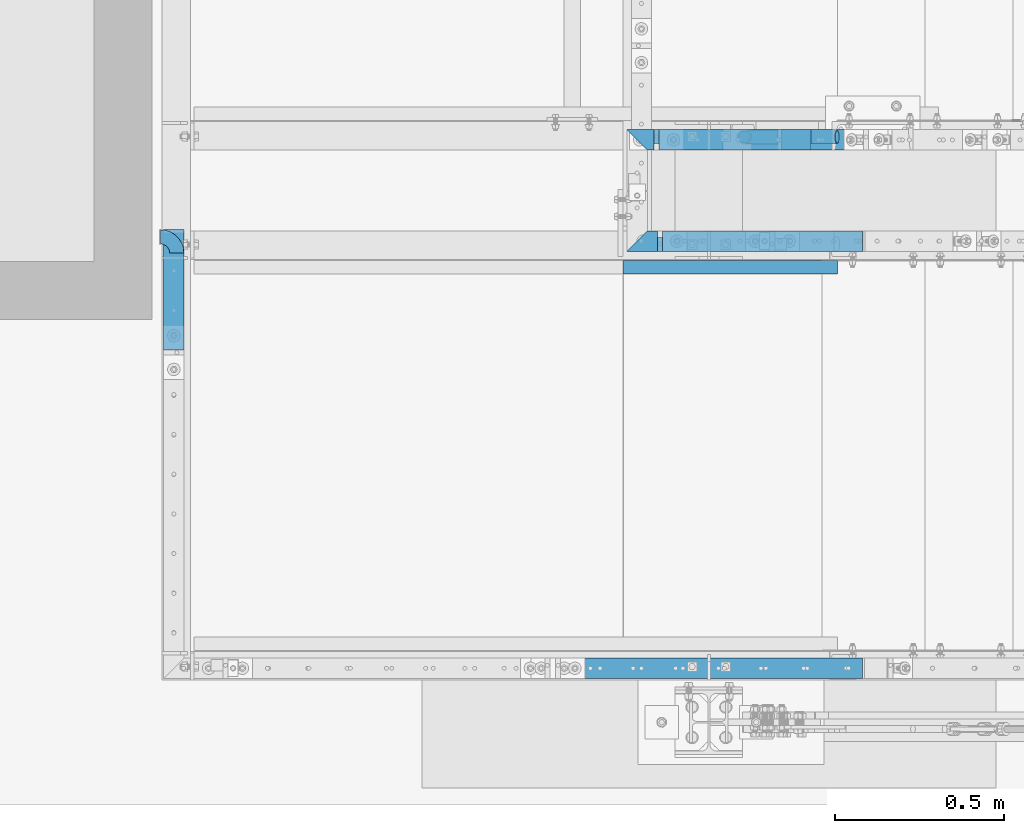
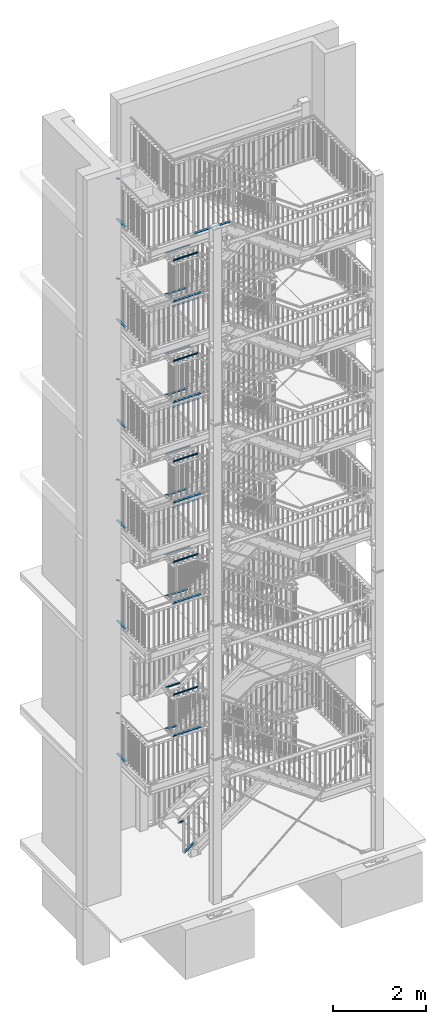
# One storey, part 132 of 821: 47 beams, 1 member, 11 openings.
"""IFC2X3 building model written with IfcOpenShell, lengths in millimetres."""

import ifcopenshell
import ifcopenshell.guid

model = None  # the IFC model being written
_history = None  # IfcOwnerHistory: only IFC2X3 demands one
_inside = {}  # id of a spatial element -> (the spatial element, [elements in it])
_under = {}  # id of a project, library or spatial element -> (it, [spatial elements below it])
_declared = {}  # id of a project -> (the project, [libraries it declares])
_typed = {}  # id of a type object -> (the type object, [elements of that type])
_made_of = {}  # id of a material, layer set ... -> (it, [elements and type objects made of it])


def new_model(schema):
    """Start an empty IFC model of exactly this schema.

    Asked for "IFC4X3", IfcOpenShell would pick the latest addendum, in which some entities
    have other attributes; the version numbers below select the first issue.
    IFC2X3 requires an IfcOwnerHistory on every rooted entity: one is made here for all.
    """
    global model, _history
    if schema == "IFC4X3":
        model = ifcopenshell.file(schema_version=(4, 3, 0, 0))
    else:
        model = ifcopenshell.file(schema=schema)
    _inside.clear()
    _under.clear()
    _declared.clear()
    _typed.clear()
    _made_of.clear()
    _history = None
    if model.schema == "IFC2X3":
        org = make("IfcOrganization", Name="unknown")
        user = make(
            "IfcPersonAndOrganization",
            ThePerson=make("IfcPerson", FamilyName="unknown"),
            TheOrganization=org,
        )
        app = make(
            "IfcApplication",
            ApplicationDeveloper=org,
            Version="unknown",
            ApplicationFullName="unknown",
            ApplicationIdentifier="unknown",
        )
        _history = make(
            "IfcOwnerHistory",
            OwningUser=user,
            OwningApplication=app,
            ChangeAction="ADDED",
            CreationDate=0,
        )
    return model


def make(cls, **values):
    """One entity of the class cls with the attributes given. An attribute that is None is left unset."""
    return model.create_entity(
        cls, **{name: value for name, value in values.items() if value is not None}
    )


def entity(cls, *values):
    """Any entity or typed value of the class cls, its attributes in the order of the schema. None: left unset."""
    e = model.create_entity(cls)
    for i, value in enumerate(values):
        if value is not None:
            e[i] = value
    return e


def rooted(cls, **values):
    """An entity with a GlobalId (a new one), such as an element, a storey or a relation."""
    return make(cls, GlobalId=ifcopenshell.guid.new(), OwnerHistory=_history, **values)


def si_unit(unit_type, name, prefix=None):
    """IfcSIUnit, for example si_unit("LENGTHUNIT", "METRE", prefix="MILLI")."""
    return make("IfcSIUnit", UnitType=unit_type, Prefix=prefix, Name=name)


def converted_unit(unit_type, name, factor, base, dimensions=None, offset=None):
    """IfcConversionBasedUnit, such as the inch: factor (a typed value) times the base unit."""
    return make(
        "IfcConversionBasedUnit"
        if offset is None
        else "IfcConversionBasedUnitWithOffset",
        ConversionOffset=offset,
        Dimensions=None
        if dimensions is None
        else entity("IfcDimensionalExponents", *dimensions),
        UnitType=unit_type,
        Name=name,
        ConversionFactor=make(
            "IfcMeasureWithUnit", ValueComponent=factor, UnitComponent=base
        ),
    )


def assignment(units):
    """IfcUnitAssignment: the units of a project."""
    return None if units is None else make("IfcUnitAssignment", Units=units)


def point(xyz):
    """IfcCartesianPoint."""
    return None if xyz is None else make("IfcCartesianPoint", Coordinates=xyz)


def direction(xyz):
    """IfcDirection."""
    return None if xyz is None else make("IfcDirection", DirectionRatios=xyz)


def frame(location, z_axis=None, x_axis=None):
    """IfcAxis2Placement3D, a coordinate frame: its origin and axes. An axis left out is left unset."""
    return make(
        "IfcAxis2Placement3D",
        Location=point(location),
        Axis=direction(z_axis),
        RefDirection=direction(x_axis),
    )


def frame_2d(location, x_axis=None):
    """IfcAxis2Placement2D, a coordinate frame in the plane: its origin and x axis."""
    return make(
        "IfcAxis2Placement2D", Location=point(location), RefDirection=direction(x_axis)
    )


def origin():
    """The frame at (0, 0, 0) with its axes left unset."""
    return frame((0.0, 0.0, 0.0))


def origin_with_axes():
    """The frame at (0, 0, 0) with the z axis (0, 0, 1) and the x axis (1, 0, 0) written out."""
    return frame((0.0, 0.0, 0.0), z_axis=(0.0, 0.0, 1.0), x_axis=(1.0, 0.0, 0.0))


def origin_2d():
    """The frame at (0, 0) in the plane with its x axis left unset."""
    return frame_2d((0.0, 0.0))


def place(relative_to, where):
    """IfcLocalPlacement: puts the frame where relative to a parent placement (None: the world)."""
    return make(
        "IfcLocalPlacement", PlacementRelTo=relative_to, RelativePlacement=where
    )


def context(
    kind, dimensions, precision=None, world=None, true_north=None, identifier=None
):
    """IfcGeometricRepresentationContext, for example the 3D "Model" context."""
    return make(
        "IfcGeometricRepresentationContext",
        ContextIdentifier=identifier,
        ContextType=kind,
        CoordinateSpaceDimension=dimensions,
        Precision=precision,
        WorldCoordinateSystem=world,
        TrueNorth=true_north,
    )


def project(units=None, contexts=None):
    """IfcProject with its units and contexts."""
    return rooted(
        "IfcProject",
        Name="project",
        RepresentationContexts=contexts,
        UnitsInContext=assignment(units),
    )


def spatial(cls, under=None, at=None, **own):
    """A site, building, storey or space (cls), placed at a placement, below another one or the project."""
    s = rooted(cls, ObjectPlacement=at, **own)
    if under is not None:
        _under.setdefault(under.id(), (under, []))[1].append(s)
    return s


def polyline(points):
    """IfcPolyline through the points."""
    return make("IfcPolyline", Points=[point(p) for p in points])


def profile(cls, at=None, kind="AREA", **sizes):
    """A parametric profile (cls). Its sizes go by their IFC names, for example OverallWidth=200.0."""
    return make(cls, ProfileType=kind, Position=at, **sizes)


def rectangle(**sizes):
    """IfcRectangleProfileDef."""
    return profile("IfcRectangleProfileDef", **sizes)


def hollow_circle(**sizes):
    """IfcCircleHollowProfileDef."""
    return profile("IfcCircleHollowProfileDef", **sizes)


def l_section(**sizes):
    """IfcLShapeProfileDef."""
    return profile("IfcLShapeProfileDef", **sizes)


def outline(outer, holes=None, kind="AREA"):
    """IfcArbitraryClosedProfileDef: a profile drawn as a closed curve; with holes, ...WithVoids."""
    if holes is None:
        return make("IfcArbitraryClosedProfileDef", ProfileType=kind, OuterCurve=outer)
    return make(
        "IfcArbitraryProfileDefWithVoids",
        ProfileType=kind,
        OuterCurve=outer,
        InnerCurves=holes,
    )


def extrude(swept, where, along, depth):
    """IfcExtrudedAreaSolid: the profile swept, set in the frame where, extruded along a direction by depth."""
    return make(
        "IfcExtrudedAreaSolid",
        SweptArea=swept,
        Position=where,
        ExtrudedDirection=direction(along),
        Depth=depth,
    )


def clip(a, b, op="DIFFERENCE"):
    """IfcBooleanClippingResult: the solid a cut by the half space b."""
    return make(
        "IfcBooleanClippingResult", Operator=op, FirstOperand=a, SecondOperand=b
    )


def halfspace(plane, agree):
    """IfcHalfSpaceSolid: all space on one side of the plane z = 0 of the frame plane."""
    return make(
        "IfcHalfSpaceSolid",
        BaseSurface=make("IfcPlane", Position=plane),
        AgreementFlag=agree,
    )


def shape(context_of_items, identifier, shape_type, items):
    """IfcShapeRepresentation: the items that make up one representation, for example the "Body"."""
    return make(
        "IfcShapeRepresentation",
        ContextOfItems=context_of_items,
        RepresentationIdentifier=identifier,
        RepresentationType=shape_type,
        Items=items,
    )


def material(Name=None, Category=None):
    """IfcMaterial."""
    return make("IfcMaterial", Name=Name, Category=Category)


def made_of(thing, what):
    """Note that an element or type object is made of a material, layer set ...; save() writes the relation."""
    if what is not None:
        _made_of.setdefault(what.id(), (what, []))[1].append(thing)
    return thing


def element(
    cls,
    number,
    at=None,
    inside=None,
    cuts=None,
    type_object=None,
    material=None,
    context=None,
    identifier="Body",
    shape_type=None,
    held_by="IfcProductDefinitionShape",
    body=None,
    shapes=None,
    **own,
):
    """One element of the class cls, such as IfcWall. Its Tag is "e" and its number.

    at: its placement. inside: the storey or other place that contains it. cuts: it is an
    opening in that element (IfcRelVoidsElement). A single representation is given by context,
    identifier, shape_type and body (its items); several are given by shapes. held_by: the class
    of the entity that holds the representations. save() writes the other relations.
    """
    e = rooted(cls, Tag="e%d" % number, ObjectPlacement=at, **own)
    if body is not None:
        shapes = [shape(context, identifier, shape_type, body)]
    if shapes is not None:
        e.Representation = make(held_by, Representations=shapes)
    if inside is not None:
        _inside.setdefault(inside.id(), (inside, []))[1].append(e)
    if cuts is not None:
        rooted(
            "IfcRelVoidsElement", RelatingBuildingElement=cuts, RelatedOpeningElement=e
        )
    if type_object is not None:
        _typed.setdefault(type_object.id(), (type_object, []))[1].append(e)
    return made_of(e, material)


def aggregate(whole, parts):
    """IfcRelAggregates: a whole, such as a stair, and the parts it consists of."""
    return rooted("IfcRelAggregates", RelatingObject=whole, RelatedObjects=parts)


def save(model, path):
    """Write the relations noted so far, then the file.

    IfcRelAggregates (storeys below a building ...), IfcRelContainedInSpatialStructure (elements
    in a storey), IfcRelDefinesByType, IfcRelAssociatesMaterial and IfcRelDeclares: one each for
    every whole, place, type object, material and project.
    """
    for whole, parts in _under.values():
        aggregate(whole, parts)
    for where, things in _inside.values():
        rooted(
            "IfcRelContainedInSpatialStructure",
            RelatedElements=things,
            RelatingStructure=where,
        )
    for kind, things in _typed.values():
        rooted("IfcRelDefinesByType", RelatedObjects=things, RelatingType=kind)
    for what, things in _made_of.values():
        rooted("IfcRelAssociatesMaterial", RelatedObjects=things, RelatingMaterial=what)
    for by, libraries in _declared.values():
        rooted("IfcRelDeclares", RelatingContext=by, RelatedDefinitions=libraries)
    model.write(path)


model = new_model("IFC2X3")

# Units and contexts
model_context = context("Model", 3, precision=1e-09, world=origin_with_axes())
ifc_project = project(units=[si_unit("LENGTHUNIT", "METRE", prefix="MILLI"), si_unit("AREAUNIT", "SQUARE_METRE"), si_unit("VOLUMEUNIT", "CUBIC_METRE"), converted_unit("PLANEANGLEUNIT", "DEGREE", entity("IfcPlaneAngleMeasure", 0.01745329), si_unit("PLANEANGLEUNIT", "RADIAN"), dimensions=[0, 0, 0, 0, 0, 0, 0])], contexts=[model_context])

# Site, building, storey
site_placement = place(None, origin_with_axes())
site = spatial("IfcSite", under=ifc_project, at=site_placement, Name="Cnopf'sche Kinderklinik", CompositionType="ELEMENT")
building_placement = place(site_placement, origin_with_axes())
building = spatial("IfcBuilding", under=site, at=building_placement, Name="Struktur 1", CompositionType="ELEMENT")
storey_placement = place(building_placement, origin_with_axes())
storey = spatial("IfcBuildingStorey", under=building, at=storey_placement, Name="Default Storey", CompositionType="ELEMENT", Elevation=0.0)

# Beams
ifc_material = material(Name="S235JR")
for number, where, z_axis, x_axis, name in (
    (1, (4601.713402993, 5722.536971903, 12567.8), (-1.0, 0.0, 0.0), (0.0, 0.0, -1.0), "TopLanding#3"),
    (2, (4601.713402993, 5722.536971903, 15202.8), (-1.0, 0.0, 0.0), (0.0, 0.0, -1.0), "TopLanding#3"),
):
    element("IfcBeam", number, at=place(None, frame(where, z_axis=z_axis, x_axis=x_axis)), inside=storey, material=ifc_material, Name=name, ObjectType="TopLanding#3", context=model_context, shape_type="SweptSolid", body=[
        extrude(l_section(Depth=40.0, Width=40.0, Thickness=4.0, FilletRadius=6.0, EdgeRadius=3.0, at=frame_2d((8.8, 8.8))), origin(), (0.0, 0.0, -1.0), 635.0),
    ])
beam_1_placement = place(None, frame((5061.878639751, 6100.536971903, 1341.2000007), z_axis=(1.0, 0.0, 0.0), x_axis=(0.0, 0.0, 1.0)))
element("IfcBeam", 3, at=beam_1_placement, inside=storey, material=ifc_material, Name="Railing_Handrail_Landing#0", ObjectType="Railing_Handrail_Landing#0", context=model_context, shape_type="Clipping", body=[
    clip(extrude(hollow_circle(Radius=21.2, WallThickness=3.2, at=origin_2d()), origin(), (0.0, 0.0, -1.0), 143.176973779), halfspace(frame((-3151.151540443, 6100.536971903, -3251.927100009), z_axis=(-0.707106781, 0.0, 0.707106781), x_axis=(0.0, -1.0, 0.0)), True)),
])

# Member, opening
member_placement = place(None, frame((5074.778509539, 6091.736971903, 519.607130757), z_axis=(-0.814635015, 0.0, -0.579973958), x_axis=(0.579973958, 0.0, -0.814635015)))
member = element("IfcMember", 4, at=member_placement, inside=storey, material=ifc_material, Name="Railing_Kneerail_Stair#1", ObjectType="Railing_Kneerail_Stair#1", context=model_context, shape_type="SweptSolid", body=[
    extrude(rectangle(XDim=10.0, YDim=60.0, at=origin_2d()), origin(), (0.0, 0.0, -1.0), 290.358185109),
])
opening_1_placement = place(member_placement, frame((713.438579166, 0.0, 212.226077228), z_axis=(-0.817517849, 0.0, -0.575903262), x_axis=(0.575903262, 0.0, -0.817517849)))
element("IfcOpeningElement", 5, at=opening_1_placement, cuts=member, ObjectType="Opening", context=model_context, shape_type="SweptSolid", body=[
    extrude(outline(polyline([(-1139.998789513, -30.001), (-1139.998789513, 30.001), (-1155.000789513, 30.001), (-1155.000789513, -30.001), (-1139.998789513, -30.001)])), origin(), (0.0, 0.0, 1.0), 128.657025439),
])

# Beams
beam_2_placement = place(None, frame((3280.513402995, 5756.383298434, 16353.999999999), z_axis=(0.0, -1.0, 0.0), x_axis=(-1.0, 0.0, 0.0)))
element("IfcBeam", 6, at=beam_2_placement, inside=storey, material=ifc_material, Name="Elbow#1", ObjectType="Elbow#1", context=model_context, shape_type="SweptSolid", body=[
    entity("IfcRevolvedAreaSolid", entity("IfcCircleHollowProfileDef", "AREA", None, entity("IfcAxis2Placement2D", entity("IfcCartesianPoint", [0.0, 0.0])), 21.2, 3.2), entity("IfcAxis2Placement3D", entity("IfcCartesianPoint", [0.0, 0.0, 0.0])), entity("IfcAxis1Placement", entity("IfcCartesianPoint", [48.0, 0.0, 0.0]), entity("IfcDirection", [0.0, -1.0, 0.0])), 90.0),
])
beam_3_placement = place(None, frame((3271.713402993, 5469.238971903, 15279.0), z_axis=(0.0, -1.0, 0.0), x_axis=(0.0, 0.0, -1.0)))
element("IfcBeam", 7, at=beam_3_placement, inside=storey, material=ifc_material, Name="Railing_Kneerail_Landing#22", ObjectType="Railing_Kneerail_Landing#22", context=model_context, shape_type="SweptSolid", body=[
    extrude(rectangle(XDim=10.0, YDim=60.0, at=origin_2d()), origin(), (0.0, 0.0, -1.0), 356.344326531),
])
beam_4_placement = place(None, frame((3280.513402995, 5756.383298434, 13718.999999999), z_axis=(0.0, -1.0, 0.0), x_axis=(-1.0, 0.0, 0.0)))
element("IfcBeam", 8, at=beam_4_placement, inside=storey, material=ifc_material, Name="Elbow#1", ObjectType="Elbow#1", context=model_context, shape_type="SweptSolid", body=[
    entity("IfcRevolvedAreaSolid", entity("IfcCircleHollowProfileDef", "AREA", None, entity("IfcAxis2Placement2D", entity("IfcCartesianPoint", [0.0, 0.0])), 21.2, 3.2), entity("IfcAxis2Placement3D", entity("IfcCartesianPoint", [0.0, 0.0, 0.0])), entity("IfcAxis1Placement", entity("IfcCartesianPoint", [48.0, 0.0, 0.0]), entity("IfcDirection", [0.0, -1.0, 0.0])), 90.0),
])
beam_5_placement = place(None, frame((3271.713402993, 5469.238971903, 12644.0), z_axis=(0.0, -1.0, 0.0), x_axis=(0.0, 0.0, -1.0)))
element("IfcBeam", 9, at=beam_5_placement, inside=storey, material=ifc_material, Name="Railing_Kneerail_Landing#22", ObjectType="Railing_Kneerail_Landing#22", context=model_context, shape_type="SweptSolid", body=[
    extrude(rectangle(XDim=10.0, YDim=60.0, at=origin_2d()), origin(), (0.0, 0.0, -1.0), 356.344326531),
])
beam_6_placement = place(None, frame((3280.513402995, 5756.383298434, 11091.999999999), z_axis=(0.0, -1.0, 0.0), x_axis=(-1.0, 0.0, 0.0)))
element("IfcBeam", 10, at=beam_6_placement, inside=storey, material=ifc_material, Name="Elbow#1", ObjectType="Elbow#1", context=model_context, shape_type="SweptSolid", body=[
    entity("IfcRevolvedAreaSolid", entity("IfcCircleHollowProfileDef", "AREA", None, entity("IfcAxis2Placement2D", entity("IfcCartesianPoint", [0.0, 0.0])), 21.2, 3.2), entity("IfcAxis2Placement3D", entity("IfcCartesianPoint", [0.0, 0.0, 0.0])), entity("IfcAxis1Placement", entity("IfcCartesianPoint", [48.0, 0.0, 0.0]), entity("IfcDirection", [0.0, -1.0, 0.0])), 90.0),
])
beam_7_placement = place(None, frame((3271.713402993, 5469.238971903, 10017.0), z_axis=(0.0, -1.0, 0.0), x_axis=(0.0, 0.0, -1.0)))
element("IfcBeam", 11, at=beam_7_placement, inside=storey, material=ifc_material, Name="Railing_Kneerail_Landing#22", ObjectType="Railing_Kneerail_Landing#22", context=model_context, shape_type="SweptSolid", body=[
    extrude(rectangle(XDim=10.0, YDim=60.0, at=origin_2d()), origin(), (0.0, 0.0, -1.0), 356.344326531),
])
beam_8_placement = place(None, frame((3280.513402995, 5756.383298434, 8459.999999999), z_axis=(0.0, -1.0, 0.0), x_axis=(-1.0, 0.0, 0.0)))
element("IfcBeam", 12, at=beam_8_placement, inside=storey, material=ifc_material, Name="Elbow#1", ObjectType="Elbow#1", context=model_context, shape_type="SweptSolid", body=[
    entity("IfcRevolvedAreaSolid", entity("IfcCircleHollowProfileDef", "AREA", None, entity("IfcAxis2Placement2D", entity("IfcCartesianPoint", [0.0, 0.0])), 21.2, 3.2), entity("IfcAxis2Placement3D", entity("IfcCartesianPoint", [0.0, 0.0, 0.0])), entity("IfcAxis1Placement", entity("IfcCartesianPoint", [48.0, 0.0, 0.0]), entity("IfcDirection", [0.0, -1.0, 0.0])), 90.0),
])
beam_9_placement = place(None, frame((3271.713402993, 5469.238971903, 7385.0), z_axis=(0.0, -1.0, 0.0), x_axis=(0.0, 0.0, -1.0)))
element("IfcBeam", 13, at=beam_9_placement, inside=storey, material=ifc_material, Name="Railing_Kneerail_Landing#22", ObjectType="Railing_Kneerail_Landing#22", context=model_context, shape_type="SweptSolid", body=[
    extrude(rectangle(XDim=10.0, YDim=60.0, at=origin_2d()), origin(), (0.0, 0.0, -1.0), 356.344326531),
])
beam_10_placement = place(None, frame((3280.513402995, 5756.383298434, 4986.999999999), z_axis=(0.0, -1.0, 0.0), x_axis=(-1.0, 0.0, 0.0)))
element("IfcBeam", 14, at=beam_10_placement, inside=storey, material=ifc_material, Name="Elbow#1", ObjectType="Elbow#1", context=model_context, shape_type="SweptSolid", body=[
    entity("IfcRevolvedAreaSolid", entity("IfcCircleHollowProfileDef", "AREA", None, entity("IfcAxis2Placement2D", entity("IfcCartesianPoint", [0.0, 0.0])), 21.2, 3.2), entity("IfcAxis2Placement3D", entity("IfcCartesianPoint", [0.0, 0.0, 0.0])), entity("IfcAxis1Placement", entity("IfcCartesianPoint", [48.0, 0.0, 0.0]), entity("IfcDirection", [0.0, -1.0, 0.0])), 90.0),
])
beam_11_placement = place(None, frame((3271.713402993, 5469.238971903, 3912.0), z_axis=(0.0, -1.0, 0.0), x_axis=(0.0, 0.0, -1.0)))
element("IfcBeam", 15, at=beam_11_placement, inside=storey, material=ifc_material, Name="Railing_Kneerail_Landing#22", ObjectType="Railing_Kneerail_Landing#22", context=model_context, shape_type="SweptSolid", body=[
    extrude(rectangle(XDim=10.0, YDim=60.0, at=origin_2d()), origin(), (0.0, 0.0, -1.0), 356.344326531),
])
beam_12_placement = place(None, frame((4601.713402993, 5722.536971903, 9940.8), z_axis=(-1.0, 0.0, 0.0), x_axis=(0.0, 0.0, -1.0)))
element("IfcBeam", 16, at=beam_12_placement, inside=storey, material=ifc_material, Name="TopLanding#3", ObjectType="TopLanding#3", context=model_context, shape_type="SweptSolid", body=[
    extrude(l_section(Depth=40.0, Width=40.0, Thickness=4.0, FilletRadius=6.0, EdgeRadius=3.0, at=frame_2d((8.8, 8.8))), origin(), (0.0, 0.0, -1.0), 635.0),
])
beam_13_placement = place(None, frame((3280.513402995, 5756.383298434, 18973.999999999), z_axis=(0.0, -1.0, 0.0), x_axis=(-1.0, 0.0, 0.0)))
element("IfcBeam", 17, at=beam_13_placement, inside=storey, material=ifc_material, Name="Elbow#1", ObjectType="Elbow#1", context=model_context, shape_type="SweptSolid", body=[
    entity("IfcRevolvedAreaSolid", entity("IfcCircleHollowProfileDef", "AREA", None, entity("IfcAxis2Placement2D", entity("IfcCartesianPoint", [0.0, 0.0])), 21.2, 3.2), entity("IfcAxis2Placement3D", entity("IfcCartesianPoint", [0.0, 0.0, 0.0])), entity("IfcAxis1Placement", entity("IfcCartesianPoint", [48.0, 0.0, 0.0]), entity("IfcDirection", [0.0, -1.0, 0.0])), 90.0),
])
beam_14_placement = place(None, frame((5311.633939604, 4526.736971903, 17899.0), z_axis=(1.0, 0.0, 0.0), x_axis=(0.0, 0.0, -1.0)))
element("IfcBeam", 18, at=beam_14_placement, inside=storey, material=ifc_material, Name="Railing_Kneerail_Landing#18", ObjectType="Railing_Kneerail_Landing#18", context=model_context, shape_type="SweptSolid", body=[
    extrude(rectangle(XDim=10.0, YDim=60.0, at=origin_2d()), origin(), (0.0, 0.0, -1.0), 894.342250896),
])
beam_15_placement = place(None, frame((3271.713402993, 5469.238971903, 17899.0), z_axis=(0.0, -1.0, 0.0), x_axis=(0.0, 0.0, -1.0)))
element("IfcBeam", 19, at=beam_15_placement, inside=storey, material=ifc_material, Name="Railing_Kneerail_Landing#22", ObjectType="Railing_Kneerail_Landing#22", context=model_context, shape_type="SweptSolid", body=[
    extrude(rectangle(XDim=10.0, YDim=60.0, at=origin_2d()), origin(), (0.0, 0.0, -1.0), 356.344326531),
])
beam_16_placement = place(None, frame((4593.013402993, 6100.536971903, 4987.0), z_axis=(-1.0, 0.0, 0.0), x_axis=(0.0, 0.0, -1.0)))
element("IfcBeam", 20, at=beam_16_placement, inside=storey, material=ifc_material, Name="Railing_Handrail_Landing#2", ObjectType="Railing_Handrail_Landing#2", context=model_context, shape_type="Clipping", body=[
    clip(clip(extrude(hollow_circle(Radius=21.2, WallThickness=3.2, at=origin_2d()), origin(), (0.0, 0.0, -1.0), 415.145706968), halfspace(frame((4987.0, 732.561077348, -774.962491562), z_axis=(0.0, -0.707106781, -0.707106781), x_axis=(0.0, -0.707106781, 0.707106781)), True)), halfspace(frame((3102.216720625, 6100.536971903, -1365.057844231), z_axis=(0.301609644, 0.0, 0.953431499), x_axis=(0.0, 1.0, 0.0)), True)),
])
beam_17_placement = place(None, frame((4558.701776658, 6091.736971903, 3912.0), z_axis=(-1.0, 0.0, 0.0), x_axis=(0.0, 0.0, -1.0)))
element("IfcBeam", 21, at=beam_17_placement, inside=storey, material=ifc_material, Name="Railing_Kneerail_Landing#0", ObjectType="Railing_Kneerail_Landing#0", context=model_context, shape_type="Clipping", body=[
    clip(extrude(rectangle(XDim=10.0, YDim=60.0, at=origin_2d()), origin(), (0.0, 0.0, -1.0), 135.511626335), halfspace(frame((3912.0, 723.761077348, -809.274117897), z_axis=(0.0, -0.707106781, -0.707106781), x_axis=(0.0, -0.707106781, 0.707106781)), True)),
])
beam_18_placement = place(None, frame((4709.213402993, 6091.736971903, 3912.0), z_axis=(-1.0, 0.0, 0.0), x_axis=(0.0, 0.0, -1.0)))
element("IfcBeam", 22, at=beam_18_placement, inside=storey, material=ifc_material, Name="Railing_Kneerail_Landing#1", ObjectType="Railing_Kneerail_Landing#1", context=model_context, shape_type="SweptSolid", body=[
    extrude(rectangle(XDim=10.0, YDim=60.0, at=origin_2d()), origin(), (0.0, 0.0, -1.0), 188.460062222),
])
beam_19_placement = place(None, frame((4593.013402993, 6100.536971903, 8460.0), z_axis=(-1.0, 0.0, 0.0), x_axis=(0.0, 0.0, -1.0)))
element("IfcBeam", 23, at=beam_19_placement, inside=storey, material=ifc_material, Name="Railing_Handrail_Landing#2", ObjectType="Railing_Handrail_Landing#2", context=model_context, shape_type="Clipping", body=[
    clip(clip(extrude(hollow_circle(Radius=21.2, WallThickness=3.2, at=origin_2d()), origin(), (0.0, 0.0, -1.0), 675.212622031), halfspace(frame((8460.0, 732.561077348, -774.962491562), z_axis=(0.0, -0.707106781, -0.707106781), x_axis=(0.0, -0.707106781, 0.707106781)), True)), halfspace(frame((6123.567620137, 6100.536971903, -2625.678709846), z_axis=(0.307936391, 0.0, 0.951406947), x_axis=(0.0, 1.0, 0.0)), True)),
])
beam_20_placement = place(None, frame((4558.701776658, 6091.736971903, 7385.0), z_axis=(-1.0, 0.0, 0.0), x_axis=(0.0, 0.0, -1.0)))
element("IfcBeam", 24, at=beam_20_placement, inside=storey, material=ifc_material, Name="Railing_Kneerail_Landing#0", ObjectType="Railing_Kneerail_Landing#0", context=model_context, shape_type="Clipping", body=[
    clip(extrude(rectangle(XDim=10.0, YDim=60.0, at=origin_2d()), origin(), (0.0, 0.0, -1.0), 135.511626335), halfspace(frame((7385.0, 723.761077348, -809.274117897), z_axis=(0.0, -0.707106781, -0.707106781), x_axis=(0.0, -0.707106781, 0.707106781)), True)),
])
beam_21_placement = place(None, frame((4709.213402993, 6091.736971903, 7385.0), z_axis=(-1.0, 0.0, 0.0), x_axis=(0.0, 0.0, -1.0)))
element("IfcBeam", 25, at=beam_21_placement, inside=storey, material=ifc_material, Name="Railing_Kneerail_Landing#1", ObjectType="Railing_Kneerail_Landing#1", context=model_context, shape_type="SweptSolid", body=[
    extrude(rectangle(XDim=10.0, YDim=60.0, at=origin_2d()), origin(), (0.0, 0.0, -1.0), 449.524355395),
])
beam_22_placement = place(None, frame((4593.013402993, 6100.536971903, 11092.0), z_axis=(-1.0, 0.0, 0.0), x_axis=(0.0, 0.0, -1.0)))
element("IfcBeam", 26, at=beam_22_placement, inside=storey, material=ifc_material, Name="Railing_Handrail_Landing#2", ObjectType="Railing_Handrail_Landing#2", context=model_context, shape_type="Clipping", body=[
    clip(clip(extrude(hollow_circle(Radius=21.2, WallThickness=3.2, at=origin_2d()), origin(), (0.0, 0.0, -1.0), 675.208022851), halfspace(frame((11092.0, 732.561077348, -774.962491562), z_axis=(0.0, -0.707106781, -0.707106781), x_axis=(0.0, -0.707106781, 0.707106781)), True)), halfspace(frame((8510.835770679, 6100.536971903, -3394.109290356), z_axis=(0.307506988, 0.0, 0.951545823), x_axis=(0.0, 1.0, 0.0)), True)),
])
beam_23_placement = place(None, frame((4558.701776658, 6091.736971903, 10017.0), z_axis=(-1.0, 0.0, 0.0), x_axis=(0.0, 0.0, -1.0)))
element("IfcBeam", 27, at=beam_23_placement, inside=storey, material=ifc_material, Name="Railing_Kneerail_Landing#0", ObjectType="Railing_Kneerail_Landing#0", context=model_context, shape_type="Clipping", body=[
    clip(extrude(rectangle(XDim=10.0, YDim=60.0, at=origin_2d()), origin(), (0.0, 0.0, -1.0), 135.511626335), halfspace(frame((10017.0, 723.761077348, -809.274117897), z_axis=(0.0, -0.707106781, -0.707106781), x_axis=(0.0, -0.707106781, 0.707106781)), True)),
])
beam_24_placement = place(None, frame((4709.213402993, 6091.736971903, 10017.0), z_axis=(-1.0, 0.0, 0.0), x_axis=(0.0, 0.0, -1.0)))
element("IfcBeam", 28, at=beam_24_placement, inside=storey, material=ifc_material, Name="Railing_Kneerail_Landing#1", ObjectType="Railing_Kneerail_Landing#1", context=model_context, shape_type="SweptSolid", body=[
    extrude(rectangle(XDim=10.0, YDim=60.0, at=origin_2d()), origin(), (0.0, 0.0, -1.0), 449.453961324),
])
beam_25_placement = place(None, frame((4593.013402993, 6100.536971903, 13719.0), z_axis=(-1.0, 0.0, 0.0), x_axis=(0.0, 0.0, -1.0)))
element("IfcBeam", 29, at=beam_25_placement, inside=storey, material=ifc_material, Name="Railing_Handrail_Landing#2", ObjectType="Railing_Handrail_Landing#2", context=model_context, shape_type="Clipping", body=[
    clip(clip(extrude(hollow_circle(Radius=21.2, WallThickness=3.2, at=origin_2d()), origin(), (0.0, 0.0, -1.0), 675.215382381), halfspace(frame((13719.0, 732.561077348, -774.962491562), z_axis=(0.0, -0.707106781, -0.707106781), x_axis=(0.0, -0.707106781, 0.707106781)), True)), halfspace(frame((10880.560986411, 6100.536971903, -4168.599063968), z_axis=(0.308193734, 0.0, 0.951323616), x_axis=(0.0, 1.0, 0.0)), True)),
])
beam_26_placement = place(None, frame((4558.701776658, 6091.736971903, 12644.0), z_axis=(-1.0, 0.0, 0.0), x_axis=(0.0, 0.0, -1.0)))
element("IfcBeam", 30, at=beam_26_placement, inside=storey, material=ifc_material, Name="Railing_Kneerail_Landing#0", ObjectType="Railing_Kneerail_Landing#0", context=model_context, shape_type="Clipping", body=[
    clip(extrude(rectangle(XDim=10.0, YDim=60.0, at=origin_2d()), origin(), (0.0, 0.0, -1.0), 135.511626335), halfspace(frame((12644.0, 723.761077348, -809.274117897), z_axis=(0.0, -0.707106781, -0.707106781), x_axis=(0.0, -0.707106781, 0.707106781)), True)),
])
beam_27_placement = place(None, frame((4709.213402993, 6091.736971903, 12644.0), z_axis=(-1.0, 0.0, 0.0), x_axis=(0.0, 0.0, -1.0)))
element("IfcBeam", 31, at=beam_27_placement, inside=storey, material=ifc_material, Name="Railing_Kneerail_Landing#1", ObjectType="Railing_Kneerail_Landing#1", context=model_context, shape_type="SweptSolid", body=[
    extrude(rectangle(XDim=10.0, YDim=60.0, at=origin_2d()), origin(), (0.0, 0.0, -1.0), 449.566416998),
])
beam_28_placement = place(None, frame((4593.013402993, 6100.536971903, 16354.0), z_axis=(-1.0, 0.0, 0.0), x_axis=(0.0, 0.0, -1.0)))
element("IfcBeam", 32, at=beam_28_placement, inside=storey, material=ifc_material, Name="Railing_Handrail_Landing#2", ObjectType="Railing_Handrail_Landing#2", context=model_context, shape_type="Clipping", body=[
    clip(clip(extrude(hollow_circle(Radius=21.2, WallThickness=3.2, at=origin_2d()), origin(), (0.0, 0.0, -1.0), 675.201586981), halfspace(frame((16354.0, 732.561077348, -774.962491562), z_axis=(0.0, -0.707106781, -0.707106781), x_axis=(0.0, -0.707106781, 0.707106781)), True)), halfspace(frame((13283.997609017, 6100.536971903, -4927.349255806), z_axis=(0.306904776, 0.0, 0.951740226), x_axis=(0.0, 1.0, 0.0)), True)),
])
beam_29_placement = place(None, frame((4558.701776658, 6091.736971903, 15279.0), z_axis=(-1.0, 0.0, 0.0), x_axis=(0.0, 0.0, -1.0)))
element("IfcBeam", 33, at=beam_29_placement, inside=storey, material=ifc_material, Name="Railing_Kneerail_Landing#0", ObjectType="Railing_Kneerail_Landing#0", context=model_context, shape_type="Clipping", body=[
    clip(extrude(rectangle(XDim=10.0, YDim=60.0, at=origin_2d()), origin(), (0.0, 0.0, -1.0), 135.511626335), halfspace(frame((15279.0, 723.761077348, -809.274117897), z_axis=(0.0, -0.707106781, -0.707106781), x_axis=(0.0, -0.707106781, 0.707106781)), True)),
])
beam_30_placement = place(None, frame((4709.213402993, 6091.736971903, 15279.0), z_axis=(-1.0, 0.0, 0.0), x_axis=(0.0, 0.0, -1.0)))
element("IfcBeam", 34, at=beam_30_placement, inside=storey, material=ifc_material, Name="Railing_Kneerail_Landing#1", ObjectType="Railing_Kneerail_Landing#1", context=model_context, shape_type="SweptSolid", body=[
    extrude(rectangle(XDim=10.0, YDim=60.0, at=origin_2d()), origin(), (0.0, 0.0, -1.0), 449.354793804),
])
beam_31_placement = place(None, frame((5268.188799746, 5782.936971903, 4987.0), z_axis=(1.0, 0.0, 0.0), x_axis=(0.0, 0.0, -1.0)))
element("IfcBeam", 35, at=beam_31_placement, inside=storey, material=ifc_material, Name="Railing_Handrail_Landing#4", ObjectType="Railing_Handrail_Landing#4", context=model_context, shape_type="Clipping", body=[
    clip(clip(extrude(hollow_circle(Radius=21.2, WallThickness=3.2, at=origin_2d()), origin(), (0.0, 0.0, -1.0), 675.175396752), halfspace(frame((4987.0, -5209.175894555, -5841.949877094), z_axis=(0.0, -0.707106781, 0.707106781), x_axis=(0.0, 0.707106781, 0.707106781)), True)), halfspace(frame((6043.370805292, -5782.936971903, -1962.993061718), z_axis=(-0.304437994, 0.0, -0.952532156), x_axis=(0.0, -1.0, 0.0)), True)),
])

# Beam, opening
beam_32_placement = place(None, frame((5312.074200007, 5791.736971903, 3912.0), z_axis=(1.0, 0.0, 0.0), x_axis=(0.0, 0.0, -1.0)))
beam_32 = element("IfcBeam", 36, at=beam_32_placement, inside=storey, material=ifc_material, Name="Railing_Kneerail_Landing#5", ObjectType="Railing_Kneerail_Landing#5", context=model_context, shape_type="SweptSolid", body=[
    extrude(rectangle(XDim=10.0, YDim=60.0, at=origin_2d()), origin(), (0.0, 0.0, -1.0), 600.360797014),
])
opening_2_placement = place(beam_32_placement, frame((60.0, 0.0, -600.360797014), z_axis=(-1.0, 0.0, 0.0), x_axis=(0.0, 0.0, 1.0)))
element("IfcOpeningElement", 37, at=opening_2_placement, cuts=beam_32, ObjectType="Opening", context=model_context, shape_type="SweptSolid", body=[
    extrude(outline(polyline([(-7.501, 30.001), (-7.501, -30.001), (7.501, -30.001), (7.501, 30.001), (-7.501, 30.001)])), origin(), (0.0, 0.0, 1.0), 120.0),
])

beam_33_placement = place(None, frame((4711.713402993, 5791.736971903, 3912.0), z_axis=(1.0, 0.0, 0.0), x_axis=(0.0, 0.0, -1.0)))
beam_33 = element("IfcBeam", 38, at=beam_33_placement, inside=storey, material=ifc_material, Name="Railing_Kneerail_Landing#6", ObjectType="Railing_Kneerail_Landing#6", context=model_context, shape_type="Clipping", body=[
    clip(extrude(rectangle(XDim=10.0, YDim=60.0, at=origin_2d()), origin(), (0.0, 0.0, -1.0), 110.511626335), halfspace(frame((3912.0, -5217.975894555, -5285.474480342), z_axis=(0.0, -0.707106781, 0.707106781), x_axis=(0.0, 0.707106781, 0.707106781)), True)),
])
opening_3_placement = place(beam_33_placement, frame((60.0, 0.0, -67.5), z_axis=(-1.0, 0.0, 0.0), x_axis=(0.0, 0.0, 1.0)))
element("IfcOpeningElement", 39, at=opening_3_placement, cuts=beam_33, ObjectType="Opening", context=model_context, shape_type="SweptSolid", body=[
    extrude(outline(polyline([(59.999, 30.001), (59.999, -30.001), (75.001, -30.001), (75.001, 30.001), (59.999, 30.001)])), origin(), (0.0, 0.0, 1.0), 120.0),
])

# Beam
beam_34_placement = place(None, frame((5268.159109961, 5782.936971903, 8460.0), z_axis=(1.0, 0.0, 0.0), x_axis=(0.0, 0.0, -1.0)))
element("IfcBeam", 40, at=beam_34_placement, inside=storey, material=ifc_material, Name="Railing_Handrail_Landing#4", ObjectType="Railing_Handrail_Landing#4", context=model_context, shape_type="Clipping", body=[
    clip(clip(extrude(hollow_circle(Radius=21.2, WallThickness=3.2, at=origin_2d()), origin(), (0.0, 0.0, -1.0), 675.145706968), halfspace(frame((8460.0, -5209.175894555, -5841.92018731), z_axis=(0.0, -0.707106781, 0.707106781), x_axis=(0.0, 0.707106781, 0.707106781)), True)), halfspace(frame((9196.298185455, -5782.936971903, -2940.614561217), z_axis=(-0.301609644, 0.0, -0.953431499), x_axis=(0.0, -1.0, 0.0)), True)),
])

# Beam, opening
beam_35_placement = place(None, frame((5312.589928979, 5791.736971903, 7385.0), z_axis=(1.0, 0.0, 0.0), x_axis=(0.0, 0.0, -1.0)))
beam_35 = element("IfcBeam", 41, at=beam_35_placement, inside=storey, material=ifc_material, Name="Railing_Kneerail_Landing#5", ObjectType="Railing_Kneerail_Landing#5", context=model_context, shape_type="SweptSolid", body=[
    extrude(rectangle(XDim=10.0, YDim=60.0, at=origin_2d()), origin(), (0.0, 0.0, -1.0), 600.876525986),
])
opening_4_placement = place(beam_35_placement, frame((60.0, 0.0, -600.876525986), z_axis=(-1.0, 0.0, 0.0), x_axis=(0.0, 0.0, 1.0)))
element("IfcOpeningElement", 42, at=opening_4_placement, cuts=beam_35, ObjectType="Opening", context=model_context, shape_type="SweptSolid", body=[
    extrude(outline(polyline([(-7.501, 30.001), (-7.501, -30.001), (7.501, -30.001), (7.501, 30.001), (-7.501, 30.001)])), origin(), (0.0, 0.0, 1.0), 120.0),
])

beam_36_placement = place(None, frame((4711.713402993, 5791.736971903, 7385.0), z_axis=(1.0, 0.0, 0.0), x_axis=(0.0, 0.0, -1.0)))
beam_36 = element("IfcBeam", 43, at=beam_36_placement, inside=storey, material=ifc_material, Name="Railing_Kneerail_Landing#6", ObjectType="Railing_Kneerail_Landing#6", context=model_context, shape_type="Clipping", body=[
    clip(extrude(rectangle(XDim=10.0, YDim=60.0, at=origin_2d()), origin(), (0.0, 0.0, -1.0), 110.511626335), halfspace(frame((7385.0, -5217.975894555, -5285.474480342), z_axis=(0.0, -0.707106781, 0.707106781), x_axis=(0.0, 0.707106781, 0.707106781)), True)),
])
opening_5_placement = place(beam_36_placement, frame((60.0, 0.0, -67.5), z_axis=(-1.0, 0.0, 0.0), x_axis=(0.0, 0.0, 1.0)))
element("IfcOpeningElement", 44, at=opening_5_placement, cuts=beam_36, ObjectType="Opening", context=model_context, shape_type="SweptSolid", body=[
    extrude(outline(polyline([(59.999, 30.001), (59.999, -30.001), (75.001, -30.001), (75.001, 30.001), (59.999, 30.001)])), origin(), (0.0, 0.0, 1.0), 120.0),
])

# Beam
beam_37_placement = place(None, frame((5268.226025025, 5782.936971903, 11092.0), z_axis=(1.0, 0.0, 0.0), x_axis=(0.0, 0.0, -1.0)))
element("IfcBeam", 45, at=beam_37_placement, inside=storey, material=ifc_material, Name="Railing_Handrail_Landing#4", ObjectType="Railing_Handrail_Landing#4", context=model_context, shape_type="Clipping", body=[
    clip(clip(extrude(hollow_circle(Radius=21.2, WallThickness=3.2, at=origin_2d()), origin(), (0.0, 0.0, -1.0), 675.212622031), halfspace(frame((11092.0, -5209.175894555, -5841.987102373), z_axis=(0.0, -0.707106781, 0.707106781), x_axis=(0.0, 0.707106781, 0.707106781)), True)), halfspace(frame((11574.417480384, -5782.936971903, -3777.738523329), z_axis=(-0.307936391, 0.0, -0.951406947), x_axis=(0.0, -1.0, 0.0)), True)),
])

# Beam, opening
beam_38_placement = place(None, frame((5311.45240536, 5791.736971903, 10017.0), z_axis=(1.0, 0.0, 0.0), x_axis=(0.0, 0.0, -1.0)))
beam_38 = element("IfcBeam", 46, at=beam_38_placement, inside=storey, material=ifc_material, Name="Railing_Kneerail_Landing#4", ObjectType="Railing_Kneerail_Landing#4", context=model_context, shape_type="SweptSolid", body=[
    extrude(rectangle(XDim=10.0, YDim=60.0, at=origin_2d()), origin(), (0.0, 0.0, -1.0), 599.739002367),
])
opening_6_placement = place(beam_38_placement, frame((60.0, 0.0, -599.739002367), z_axis=(-1.0, 0.0, 0.0), x_axis=(0.0, 0.0, 1.0)))
element("IfcOpeningElement", 47, at=opening_6_placement, cuts=beam_38, ObjectType="Opening", context=model_context, shape_type="SweptSolid", body=[
    extrude(outline(polyline([(-7.501, 30.001), (-7.501, -30.001), (7.501, -30.001), (7.501, 30.001), (-7.501, 30.001)])), origin(), (0.0, 0.0, 1.0), 120.0),
])

beam_39_placement = place(None, frame((4711.713402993, 5791.736971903, 10017.0), z_axis=(1.0, 0.0, 0.0), x_axis=(0.0, 0.0, -1.0)))
beam_39 = element("IfcBeam", 48, at=beam_39_placement, inside=storey, material=ifc_material, Name="Railing_Kneerail_Landing#5", ObjectType="Railing_Kneerail_Landing#5", context=model_context, shape_type="Clipping", body=[
    clip(extrude(rectangle(XDim=10.0, YDim=60.0, at=origin_2d()), origin(), (0.0, 0.0, -1.0), 110.511626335), halfspace(frame((10017.0, -5217.975894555, -5285.474480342), z_axis=(0.0, -0.707106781, 0.707106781), x_axis=(0.0, 0.707106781, 0.707106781)), True)),
])
opening_7_placement = place(beam_39_placement, frame((60.0, 0.0, -67.5), z_axis=(-1.0, 0.0, 0.0), x_axis=(0.0, 0.0, 1.0)))
element("IfcOpeningElement", 49, at=opening_7_placement, cuts=beam_39, ObjectType="Opening", context=model_context, shape_type="SweptSolid", body=[
    extrude(outline(polyline([(59.999, 30.001), (59.999, -30.001), (75.001, -30.001), (75.001, 30.001), (59.999, 30.001)])), origin(), (0.0, 0.0, 1.0), 120.0),
])

# Beam
beam_40_placement = place(None, frame((5268.221425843, 5782.936971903, 13719.0), z_axis=(1.0, 0.0, 0.0), x_axis=(0.0, 0.0, -1.0)))
element("IfcBeam", 50, at=beam_40_placement, inside=storey, material=ifc_material, Name="Railing_Handrail_Landing#4", ObjectType="Railing_Handrail_Landing#4", context=model_context, shape_type="Clipping", body=[
    clip(clip(extrude(hollow_circle(Radius=21.2, WallThickness=3.2, at=origin_2d()), origin(), (0.0, 0.0, -1.0), 675.20802285), halfspace(frame((13719.0, -5209.175894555, -5841.982503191), z_axis=(0.0, -0.707106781, 0.707106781), x_axis=(0.0, 0.707106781, 0.707106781)), True)), halfspace(frame((13954.022486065, -5782.936971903, -4540.97074906), z_axis=(-0.307506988, 0.0, -0.951545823), x_axis=(0.0, -1.0, 0.0)), True)),
])

# Beam, opening
beam_41_placement = place(None, frame((5311.527784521, 5791.736971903, 12644.0), z_axis=(1.0, 0.0, 0.0), x_axis=(0.0, 0.0, -1.0)))
beam_41 = element("IfcBeam", 51, at=beam_41_placement, inside=storey, material=ifc_material, Name="Railing_Kneerail_Landing#4", ObjectType="Railing_Kneerail_Landing#4", context=model_context, shape_type="SweptSolid", body=[
    extrude(rectangle(XDim=10.0, YDim=60.0, at=origin_2d()), origin(), (0.0, 0.0, -1.0), 599.814381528),
])
opening_8_placement = place(beam_41_placement, frame((60.0, 0.0, -599.814381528), z_axis=(-1.0, 0.0, 0.0), x_axis=(0.0, 0.0, 1.0)))
element("IfcOpeningElement", 52, at=opening_8_placement, cuts=beam_41, ObjectType="Opening", context=model_context, shape_type="SweptSolid", body=[
    extrude(outline(polyline([(-7.501, 30.001), (-7.501, -30.001), (7.501, -30.001), (7.501, 30.001), (-7.501, 30.001)])), origin(), (0.0, 0.0, 1.0), 120.0),
])

beam_42_placement = place(None, frame((4711.713402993, 5791.736971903, 12644.0), z_axis=(1.0, 0.0, 0.0), x_axis=(0.0, 0.0, -1.0)))
beam_42 = element("IfcBeam", 53, at=beam_42_placement, inside=storey, material=ifc_material, Name="Railing_Kneerail_Landing#5", ObjectType="Railing_Kneerail_Landing#5", context=model_context, shape_type="Clipping", body=[
    clip(extrude(rectangle(XDim=10.0, YDim=60.0, at=origin_2d()), origin(), (0.0, 0.0, -1.0), 110.511626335), halfspace(frame((12644.0, -5217.975894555, -5285.474480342), z_axis=(0.0, -0.707106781, 0.707106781), x_axis=(0.0, 0.707106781, 0.707106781)), True)),
])
opening_9_placement = place(beam_42_placement, frame((60.0, 0.0, -67.5), z_axis=(-1.0, 0.0, 0.0), x_axis=(0.0, 0.0, 1.0)))
element("IfcOpeningElement", 54, at=opening_9_placement, cuts=beam_42, ObjectType="Opening", context=model_context, shape_type="SweptSolid", body=[
    extrude(outline(polyline([(59.999, 30.001), (59.999, -30.001), (75.001, -30.001), (75.001, 30.001), (59.999, 30.001)])), origin(), (0.0, 0.0, 1.0), 120.0),
])

# Beam
beam_43_placement = place(None, frame((5268.228785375, 5782.936971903, 16354.0), z_axis=(1.0, 0.0, 0.0), x_axis=(0.0, 0.0, -1.0)))
element("IfcBeam", 55, at=beam_43_placement, inside=storey, material=ifc_material, Name="Railing_Handrail_Landing#4", ObjectType="Railing_Handrail_Landing#4", context=model_context, shape_type="Clipping", body=[
    clip(clip(extrude(hollow_circle(Radius=21.2, WallThickness=3.2, at=origin_2d()), origin(), (0.0, 0.0, -1.0), 675.215382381), halfspace(frame((16354.0, -5209.175894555, -5841.989862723), z_axis=(0.0, -0.707106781, 0.707106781), x_axis=(0.0, 0.707106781, 0.707106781)), True)), halfspace(frame((16336.003889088, -5782.936971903, -5323.778666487), z_axis=(-0.308193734, 0.0, -0.951323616), x_axis=(0.0, -1.0, 0.0)), True)),
])

# Beam, opening
beam_44_placement = place(None, frame((5311.40735514, 5791.736971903, 15279.0), z_axis=(1.0, 0.0, 0.0), x_axis=(0.0, 0.0, -1.0)))
beam_44 = element("IfcBeam", 56, at=beam_44_placement, inside=storey, material=ifc_material, Name="Railing_Kneerail_Landing#4", ObjectType="Railing_Kneerail_Landing#4", context=model_context, shape_type="SweptSolid", body=[
    extrude(rectangle(XDim=10.0, YDim=60.0, at=origin_2d()), origin(), (0.0, 0.0, -1.0), 599.693952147),
])
opening_10_placement = place(beam_44_placement, frame((60.0, 0.0, -599.693952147), z_axis=(-1.0, 0.0, 0.0), x_axis=(0.0, 0.0, 1.0)))
element("IfcOpeningElement", 57, at=opening_10_placement, cuts=beam_44, ObjectType="Opening", context=model_context, shape_type="SweptSolid", body=[
    extrude(outline(polyline([(-7.501, 30.001), (-7.501, -30.001), (7.501, -30.001), (7.501, 30.001), (-7.501, 30.001)])), origin(), (0.0, 0.0, 1.0), 120.0),
])

beam_45_placement = place(None, frame((4711.713402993, 5791.736971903, 15279.0), z_axis=(1.0, 0.0, 0.0), x_axis=(0.0, 0.0, -1.0)))
beam_45 = element("IfcBeam", 58, at=beam_45_placement, inside=storey, material=ifc_material, Name="Railing_Kneerail_Landing#5", ObjectType="Railing_Kneerail_Landing#5", context=model_context, shape_type="Clipping", body=[
    clip(extrude(rectangle(XDim=10.0, YDim=60.0, at=origin_2d()), origin(), (0.0, 0.0, -1.0), 110.511626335), halfspace(frame((15279.0, -5217.975894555, -5285.474480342), z_axis=(0.0, -0.707106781, 0.707106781), x_axis=(0.0, 0.707106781, 0.707106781)), True)),
])
opening_11_placement = place(beam_45_placement, frame((60.0, 0.0, -67.5), z_axis=(-1.0, 0.0, 0.0), x_axis=(0.0, 0.0, 1.0)))
element("IfcOpeningElement", 59, at=opening_11_placement, cuts=beam_45, ObjectType="Opening", context=model_context, shape_type="SweptSolid", body=[
    extrude(outline(polyline([(59.999, 30.001), (59.999, -30.001), (75.001, -30.001), (75.001, 30.001), (59.999, 30.001)])), origin(), (0.0, 0.0, 1.0), 120.0),
])

save(model, "model.ifc")
